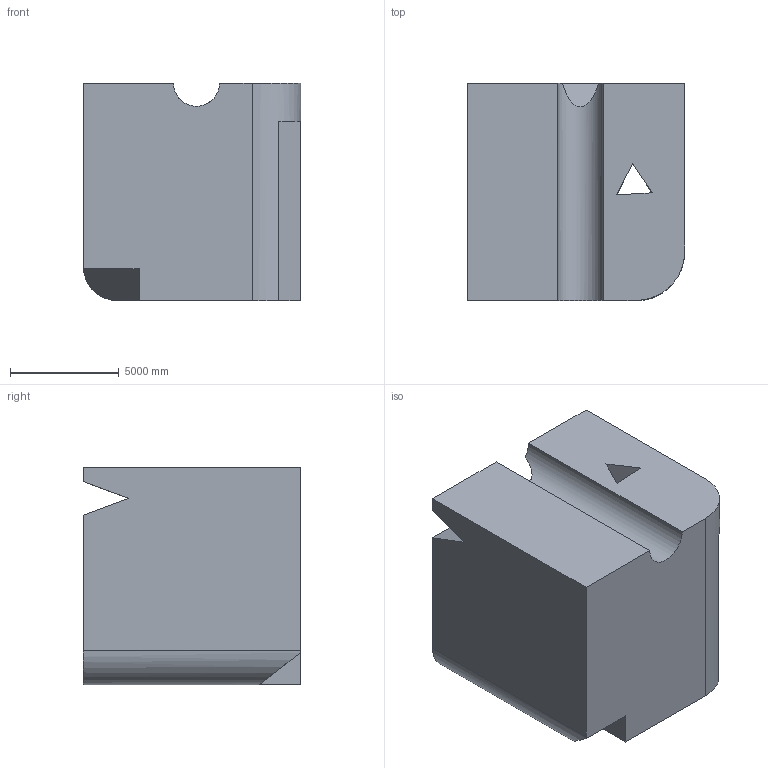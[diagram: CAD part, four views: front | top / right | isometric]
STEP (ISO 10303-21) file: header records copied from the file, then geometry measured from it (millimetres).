
FILE_DESCRIPTION (( 'STEP AP203' ), '1' );
FILE_NAME ('1842.STEP', '2022-08-19T13:26:29', ( 'user' ), ( '' ), 'SwSTEP 2.0', 'SolidWorks 2021', '' );
FILE_SCHEMA (( 'CONFIG_CONTROL_DESIGN' ));
Length unit declared in the file: centimetre
Products named in the file (1): 1842
Bounding box: 10000 x 10000 x 10000 mm (x, y, z)
Volume: 903943751648.4 mm3; surface area: 665519771.2 mm2
Topology: 1 solids, 1 shells, 29 faces, 81 edges, 54 vertices
Faces by surface type: plane 26, cylinder 3
Entity records: 1005 total; most frequent: CARTESIAN_POINT 171, ORIENTED_EDGE 162, DIRECTION 148, EDGE_CURVE 81, VECTOR 70, LINE 70, VERTEX_POINT 54, AXIS2_PLACEMENT_3D 39
